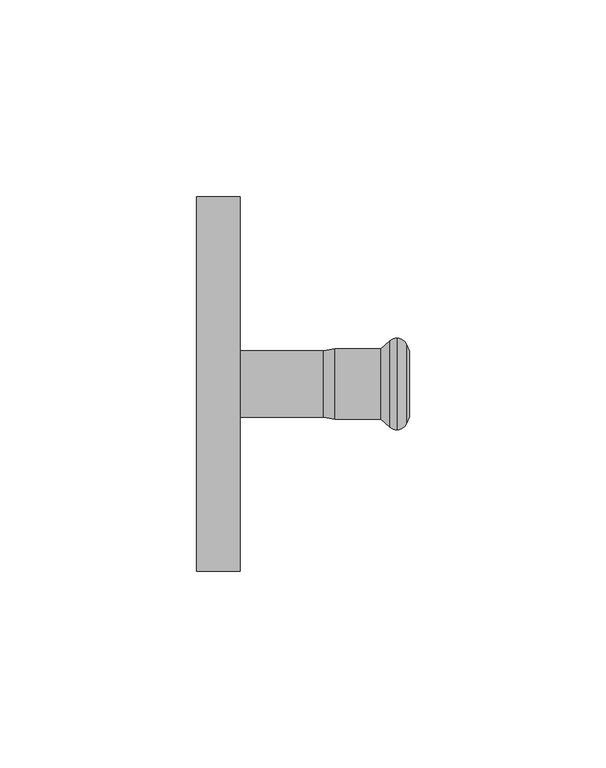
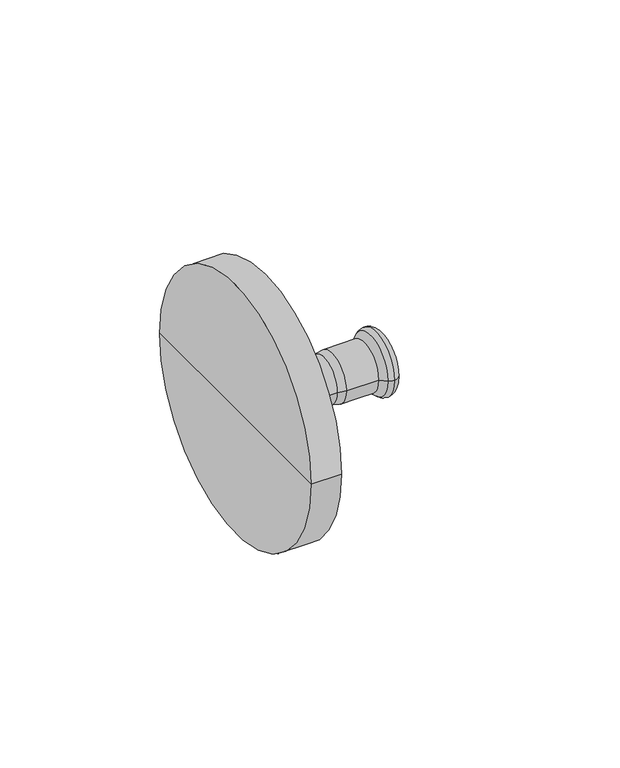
"""IFC4 building model written with IfcOpenShell, lengths in millimetres: pipe fitting geometry, KAN-therm Inox kołnierz : KAN-therm Inox kołnierz."""

from ifc_helpers import new_model, si_unit, point, frame, origin, place, context, project, spatial, polyline, circle_curve, ellipse_curve, trimmed, source, transform, mapped, element, save
from ifc_brep_helpers import plane_surface, cylinder_surface, revolved_surface, advanced_brep


def pipe_fitting_2707d0cc(model_context):
    return source(origin(), model_context, "Body", "AdvancedBrep", [
        advanced_brep(
        [(49.0922627, -10.9370225, 0.0), (49.0922627, 10.9370225, 0.0), (50.8921278, 11.625, 0.0), (50.8921278, -11.625, 0.0), (46.7838092, -9.0, 0.0), (46.7838092, 9.0, 0.0), (35.1180407, -9.0, 0.0), (35.1180407, 9.0, 0.0), (32.2, -8.4, 0.0), (32.2, 8.4, 0.0), (11.0, -8.4, 0.0), (11.0, 8.4, 0.0), (54.0, -8.2880302, 0.0), (54.0, 8.2880302, 0.0), (54.0, 0.0, 0.0), (53.432052, -9.8484544, 0.0), (53.432052, 9.8484544, 0.0), (0.0, 0.0, 0.0), (0.0, 47.5, 0.0), (0.0, -47.5, 0.0), (11.0, 47.5, 0.0), (11.0, -47.5, 0.0)],
        [
            (0, 1, circle_curve(frame((49.0922627, 0.0, 0.0), z_axis=(1.0, 0.0, 0.0), x_axis=(0.0, 1.0, 0.0)), 10.9370225)),
            (1, 2, circle_curve(frame((50.8935049, 8.9230333, 0.0), z_axis=(0.0, 0.0, -1.0), x_axis=(1.0, 0.0, 0.0)), 2.701967)),
            (2, 3, circle_curve(frame((50.8921278, 0.0, 0.0), z_axis=(-1.0, 0.0, 0.0), x_axis=(0.0, 1.0, 0.0)), 11.625)),
            (3, 0, circle_curve(frame((50.8935049, -8.9230333, 0.0), z_axis=(0.0, 0.0, -1.0), x_axis=(1.0, 0.0, 0.0)), 2.701967)),
            (1, 0, circle_curve(frame((49.0922627, 0.0, 0.0), z_axis=(1.0, 0.0, 0.0), x_axis=(0.0, 1.0, 0.0)), 10.9370225)),
            (3, 2, circle_curve(frame((50.8921278, 0.0, 0.0), z_axis=(-1.0, 0.0, 0.0), x_axis=(0.0, 1.0, 0.0)), 11.625)),
            (4, 5, circle_curve(frame((46.7838092, 0.0, 0.0), z_axis=(1.0, 0.0, 0.0), x_axis=(0.0, 1.0, 0.0)), 9.0)),
            (5, 1),
            (0, 4),
            (5, 4, circle_curve(frame((46.7838092, 0.0, 0.0), z_axis=(1.0, 0.0, 0.0), x_axis=(0.0, 1.0, 0.0)), 9.0)),
            (6, 7, circle_curve(frame((35.1180407, 0.0, 0.0), z_axis=(1.0, 0.0, 0.0), x_axis=(0.0, 1.0, 0.0)), 9.0)),
            (7, 5),
            (4, 6),
            (7, 6, circle_curve(frame((35.1180407, 0.0, 0.0), z_axis=(1.0, 0.0, 0.0), x_axis=(0.0, 1.0, 0.0)), 9.0)),
            (8, 9, circle_curve(frame((32.2, 0.0, 0.0), z_axis=(1.0, 0.0, 0.0), x_axis=(0.0, 1.0, 0.0)), 8.4)),
            (9, 7),
            (6, 8),
            (9, 8, circle_curve(frame((32.2, 0.0, 0.0), z_axis=(1.0, 0.0, 0.0), x_axis=(0.0, 1.0, 0.0)), 8.4)),
            (10, 11, circle_curve(frame((11.0, 0.0, 0.0), z_axis=(1.0, 0.0, 0.0), x_axis=(0.0, 1.0, 0.0)), 8.4)),
            (11, 9),
            (8, 10),
            (11, 10, circle_curve(frame((11.0, 0.0, 0.0), z_axis=(1.0, 0.0, 0.0), x_axis=(0.0, 1.0, 0.0)), 8.4)),
            (12, 13, circle_curve(frame((54.0, 0.0, 0.0), z_axis=(1.0, 0.0, 0.0), x_axis=(0.0, 1.0, 0.0)), 8.2880302)),
            (13, 14),
            (14, 12),
            (13, 12, circle_curve(frame((54.0, 0.0, 0.0), z_axis=(1.0, 0.0, 0.0), x_axis=(0.0, 1.0, 0.0)), 8.2880302)),
            (15, 16, circle_curve(frame((53.432052, 0.0, 0.0), z_axis=(1.0, 0.0, 0.0), x_axis=(0.0, 1.0, 0.0)), 9.8484544)),
            (16, 13),
            (12, 15),
            (16, 15, circle_curve(frame((53.432052, 0.0, 0.0), z_axis=(1.0, 0.0, 0.0), x_axis=(0.0, 1.0, 0.0)), 9.8484544)),
            (2, 16, circle_curve(frame((50.89488, 8.9249993, 0.0), z_axis=(0.0, 0.0, -1.0), x_axis=(1.0, 0.0, 0.0)), 2.7000021)),
            (15, 3, circle_curve(frame((50.89488, -8.9249993, 0.0), z_axis=(0.0, 0.0, -1.0), x_axis=(1.0, 0.0, 0.0)), 2.7000021)),
            (17, 18),
            (18, 19, circle_curve(frame((0.0, 0.0, 0.0), z_axis=(-1.0, 0.0, 0.0), x_axis=(0.0, 1.0, 0.0)), 47.5)),
            (19, 17),
            (19, 18, circle_curve(frame((0.0, 0.0, 0.0), z_axis=(-1.0, 0.0, 0.0), x_axis=(0.0, 1.0, 0.0)), 47.5)),
            (18, 20),
            (20, 21, circle_curve(frame((11.0, 0.0, 0.0), z_axis=(-1.0, 0.0, 0.0), x_axis=(0.0, 1.0, 0.0)), 47.5)),
            (21, 19),
            (21, 20, circle_curve(frame((11.0, 0.0, 0.0), z_axis=(-1.0, 0.0, 0.0), x_axis=(0.0, 1.0, 0.0)), 47.5)),
            (20, 11),
            (10, 21),
        ],
        [
            revolved_surface(trimmed(ellipse_curve(frame((50.8935049, 8.9230333, 0.0), z_axis=(0.0, 0.0, 1.0), x_axis=(1.0, 0.0, 0.0)), 2.701967, 2.701967), [point((50.8921278, 11.625, 0.0))], [point((49.0922627, 10.9370225, 0.0))], True, "CARTESIAN"), (1367.742668, 0.0, 0.0), (-1.0, 0.0, 0.0)),
            revolved_surface(polyline([(49.0922627, 10.9370225, 0.0), (46.7838092, 9.0, 0.0)]), (1367.742668, 0.0, 0.0), (-1.0, 0.0, 0.0)),
            cylinder_surface(frame((1367.742668, 0.0, 0.0), z_axis=(-1.0, 0.0, 0.0), x_axis=(0.0, 1.0, 0.0)), 9.0),
            revolved_surface(polyline([(35.1180407, 9.0, 0.0), (32.2, 8.4, 0.0)]), (1367.742668, 0.0, 0.0), (-1.0, 0.0, 0.0)),
            cylinder_surface(frame((1367.742668, 0.0, 0.0), z_axis=(-1.0, 0.0, 0.0), x_axis=(0.0, 1.0, 0.0)), 8.4),
            plane_surface(frame((54.0, 0.0, 0.0), z_axis=(1.0, 0.0, 0.0), x_axis=(0.0, 1.0, 0.0))),
            revolved_surface(polyline([(54.0, 8.2880302, 0.0), (53.432052, 9.8484544, 0.0)]), (1367.742668, 0.0, 0.0), (-1.0, 0.0, 0.0)),
            revolved_surface(trimmed(ellipse_curve(frame((50.89488, 8.9249993, 0.0), z_axis=(0.0, 0.0, 1.0), x_axis=(1.0, 0.0, 0.0)), 2.7000021, 2.7000021), [point((53.432052, 9.8484544, 0.0))], [point((50.8921278, 11.625, 0.0))], True, "CARTESIAN"), (1367.742668, 0.0, 0.0), (-1.0, 0.0, 0.0)),
            plane_surface(frame((0.0, 0.0, 0.0), z_axis=(-1.0, 0.0, 0.0), x_axis=(0.0, 1.0, 0.0))),
            cylinder_surface(frame((1367.742668, 0.0, 0.0), z_axis=(-1.0, 0.0, 0.0), x_axis=(0.0, 1.0, 0.0)), 47.5),
            plane_surface(frame((11.0, 0.0, 0.0), z_axis=(1.0, 0.0, 0.0), x_axis=(0.0, 1.0, 0.0))),
        ],
        [
            (0, [[1, 2, 3, 4]]),
            (0, [[5, -4, 6, -2]]),
            (1, [[7, 8, -1, 9]]),
            (1, [[10, -9, -5, -8]]),
            (2, [[11, 12, -7, 13]]),
            (2, [[14, -13, -10, -12]]),
            (3, [[15, 16, -11, 17]]),
            (3, [[18, -17, -14, -16]]),
            (4, [[19, 20, -15, 21]]),
            (4, [[22, -21, -18, -20]]),
            (5, [[23, 24, 25]]),
            (5, [[26, -25, -24]]),
            (6, [[27, 28, -23, 29]]),
            (6, [[30, -29, -26, -28]]),
            (7, [[-3, 31, -27, 32]]),
            (7, [[-6, -32, -30, -31]]),
            (8, [[33, 34, 35]]),
            (8, [[-35, 36, -33]]),
            (9, [[-34, 37, 38, 39]]),
            (9, [[-36, -39, 40, -37]]),
            (10, [[-38, 41, -19, 42]]),
            (10, [[-40, -42, -22, -41]]),
        ],
    ),
    ])


if __name__ == "__main__":
    model = new_model("IFC4")
    model_context = context("Model", 3, world=origin())
    ifc_project = project(units=[si_unit("LENGTHUNIT", "METRE", prefix="MILLI")], contexts=[model_context])
    site = spatial("IfcSite", under=ifc_project)
    building = spatial("IfcBuilding", under=site)
    placement = place(None, origin())
    pipe_fitting_shape = pipe_fitting_2707d0cc(model_context)
    element("IfcPipeFitting", 1, ObjectType="KAN-therm Inox kołnierz : KAN-therm Inox kołnierz", at=placement, inside=building, context=model_context, shape_type="MappedRepresentation", body=[
        mapped(pipe_fitting_shape, transform((0.0, 0.0, 0.0), x_axis=(1.0, 0.0, 0.0), y_axis=(0.0, 1.0, 0.0), z_axis=(0.0, 0.0, 1.0))),
    ])
    save(model, "model.ifc")
